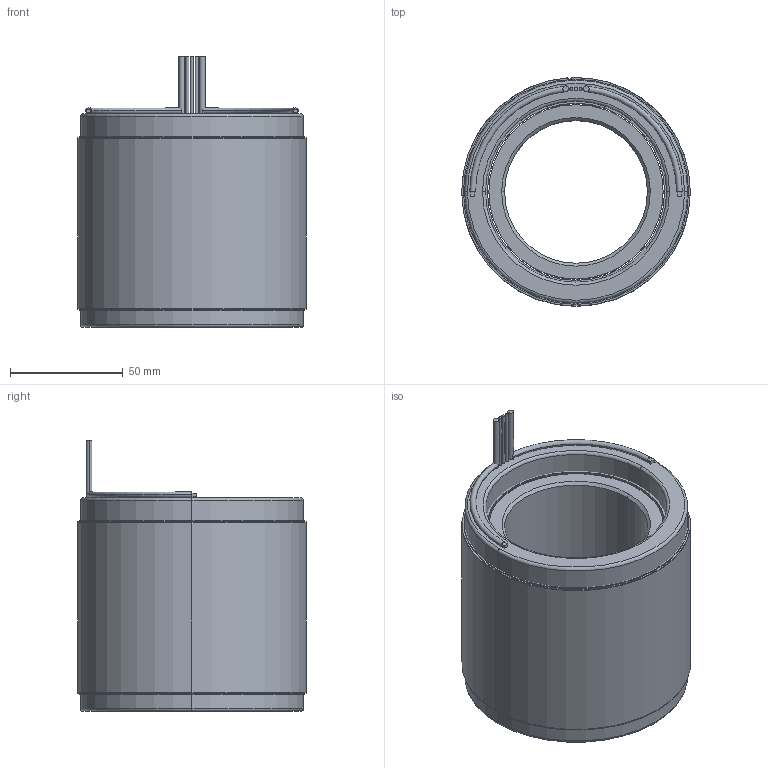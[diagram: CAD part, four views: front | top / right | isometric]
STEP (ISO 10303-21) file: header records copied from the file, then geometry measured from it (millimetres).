
FILE_DESCRIPTION (( 'STEP AP214' ), '1' );
FILE_NAME ('6100339-06.STEP', '2019-10-23T21:18:40', ( '' ), ( '' ), 'SwSTEP 2.0', 'SolidWorks 2016', '' );
FILE_SCHEMA (( 'AUTOMOTIVE_DESIGN' ));
Length unit declared in the file: millimetre
Products named in the file (11): 4600555-00; 4450182-XX_4450182-06; 4400095-00; 6100339-06; 4500542-XX_4500542-06; COMP4500542-XX(COIL)_COMP4500542-06(COIL); 4150169-XX_4150169-06; 4250363-XX_4250363-06
Assembly tree (10 placements, depth 4):
  6100339-06
    4250363-XX_4250363-06
      4150169-XX_4150169-06
    4500542-XX_4500542-06
      4450182-XX_4450182-06
        4450182-XX_4450182-06
        4400095-00
        4400095-00
        4600555-00
        4600555-00
      COMP4500542-XX(COIL)_COMP4500542-06(COIL)
Bounding box: 101.6 x 101.57 x 120.4 mm (x, y, z)
Volume: 616342.7 mm3; surface area: 171866.8 mm2
Topology: 14 solids, 14 shells, 109 faces, 215 edges, 134 vertices
Faces by surface type: cylinder 49, plane 44, torus 12, cone 4
Entity records: 3342 total; most frequent: DIRECTION 603, CARTESIAN_POINT 474, ORIENTED_EDGE 430, AXIS2_PLACEMENT_3D 263, EDGE_CURVE 215, CIRCLE 138, VERTEX_POINT 134, EDGE_LOOP 123
